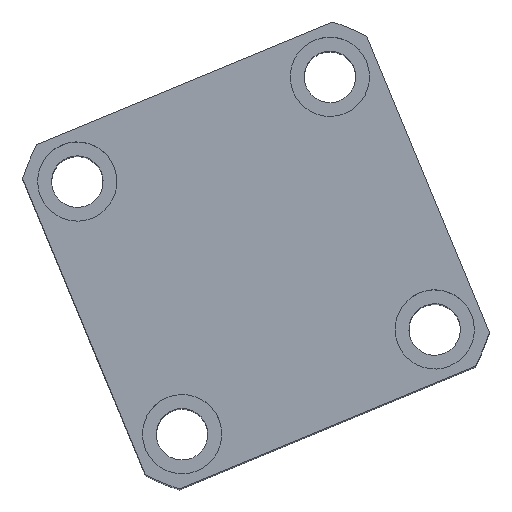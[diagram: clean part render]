
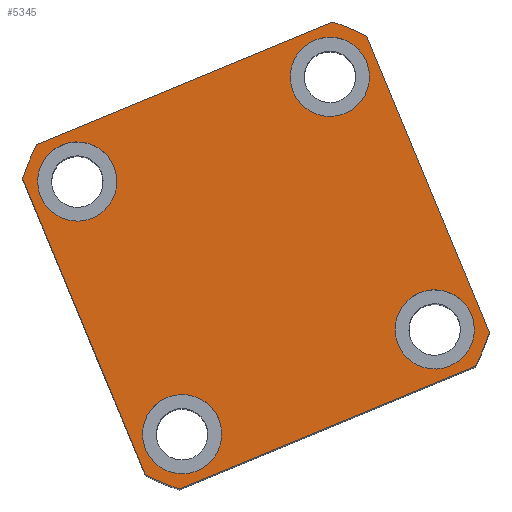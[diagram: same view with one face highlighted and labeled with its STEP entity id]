
A CAD part, top view. The second image highlights one B-rep face of the part: STEP entity #5345.
In plain terms, the highlighted planar face has unit normal (0, 0, 1) as drawn and (0, 0, -1) by its records, which use the part's own axes.
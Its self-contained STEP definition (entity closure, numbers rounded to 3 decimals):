
#85 = EDGE_LOOP ( 'NONE', ( #21228, #8187 ) ) ;
#237 = EDGE_CURVE ( 'NONE', #12508, #12687, #6396, .T. ) ;
#327 = DIRECTION ( 'NONE',  ( -1., 0., 0. ) ) ;
#636 = DIRECTION ( 'NONE',  ( 1., 0., 0. ) ) ;
#758 = FACE_BOUND ( 'NONE', #10509, .T. ) ;
#806 = CARTESIAN_POINT ( 'NONE',  ( -47., -40.435, 0. ) ) ;
#1016 = AXIS2_PLACEMENT_3D ( 'NONE', #5175, #20611, #20677 ) ;
#1119 = DIRECTION ( 'NONE',  ( 0., 0., -1. ) ) ;
#1120 = CIRCLE ( 'NONE', #6675, 10. ) ;
#1406 = EDGE_CURVE ( 'NONE', #20919, #4020, #7980, .T. ) ;
#1445 = DIRECTION ( 'NONE',  ( -1., 0., 0. ) ) ;
#1477 = DIRECTION ( 'NONE',  ( 0., 1., 0. ) ) ;
#1649 = ORIENTED_EDGE ( 'NONE', *, *, #6946, .F. ) ;
#1874 = DIRECTION ( 'NONE',  ( 0., 0., -1. ) ) ;
#1892 = VERTEX_POINT ( 'NONE', #15935 ) ;
#2081 = CIRCLE ( 'NONE', #14887, 10. ) ;
#2180 = EDGE_CURVE ( 'NONE', #6702, #1892, #2604, .T. ) ;
#2240 = VECTOR ( 'NONE', #21221, 1000. ) ;
#2587 = EDGE_CURVE ( 'NONE', #17488, #5610, #18224, .T. ) ;
#2604 = CIRCLE ( 'NONE', #9728, 62. ) ;
#2925 = ORIENTED_EDGE ( 'NONE', *, *, #17351, .F. ) ;
#3380 = EDGE_CURVE ( 'NONE', #1892, #8359, #4036, .T. ) ;
#3423 = VECTOR ( 'NONE', #18660, 1000. ) ;
#3490 = VECTOR ( 'NONE', #1477, 1000. ) ;
#4020 = VERTEX_POINT ( 'NONE', #21328 ) ;
#4036 = LINE ( 'NONE', #15121, #3490 ) ;
#4294 = FACE_BOUND ( 'NONE', #9649, .T. ) ;
#4534 = CARTESIAN_POINT ( 'NONE',  ( 44.5, 34.5, 0. ) ) ;
#4647 = CARTESIAN_POINT ( 'NONE',  ( -47., -47., 0. ) ) ;
#4968 = EDGE_LOOP ( 'NONE', ( #6343, #8137, #13708, #7943, #16363, #9401, #2925, #19614 ) ) ;
#5162 = CIRCLE ( 'NONE', #9027, 62. ) ;
#5175 = CARTESIAN_POINT ( 'NONE',  ( 0., 0., 0. ) ) ;
#5345 = ADVANCED_FACE ( 'NONE', ( #4294, #8828, #22079, #758, #12923 ), #18954, .F. ) ;
#5610 = VERTEX_POINT ( 'NONE', #14106 ) ;
#5635 = DIRECTION ( 'NONE',  ( 0., 0., 1. ) ) ;
#5738 = EDGE_CURVE ( 'NONE', #9385, #12350, #2081, .T. ) ;
#6343 = ORIENTED_EDGE ( 'NONE', *, *, #18314, .F. ) ;
#6393 = DIRECTION ( 'NONE',  ( 0., 0., 1. ) ) ;
#6396 = CIRCLE ( 'NONE', #21846, 10. ) ;
#6449 = CARTESIAN_POINT ( 'NONE',  ( -44.5, -34.5, 0. ) ) ;
#6495 = ORIENTED_EDGE ( 'NONE', *, *, #237, .F. ) ;
#6599 = CARTESIAN_POINT ( 'NONE',  ( -47., 40.435, 0. ) ) ;
#6675 = AXIS2_PLACEMENT_3D ( 'NONE', #12218, #1874, #13936 ) ;
#6702 = VERTEX_POINT ( 'NONE', #12682 ) ;
#6946 = EDGE_CURVE ( 'NONE', #12687, #12508, #9917, .T. ) ;
#7143 = CARTESIAN_POINT ( 'NONE',  ( 44.5, -34.5, 0. ) ) ;
#7373 = EDGE_CURVE ( 'NONE', #12849, #8267, #10703, .T. ) ;
#7631 = DIRECTION ( 'NONE',  ( 0., 0., -1. ) ) ;
#7943 = ORIENTED_EDGE ( 'NONE', *, *, #20661, .F. ) ;
#7980 = LINE ( 'NONE', #18951, #3423 ) ;
#8077 = DIRECTION ( 'NONE',  ( 1., 0., 0. ) ) ;
#8137 = ORIENTED_EDGE ( 'NONE', *, *, #3380, .F. ) ;
#8187 = ORIENTED_EDGE ( 'NONE', *, *, #21404, .F. ) ;
#8267 = VERTEX_POINT ( 'NONE', #7143 ) ;
#8359 = VERTEX_POINT ( 'NONE', #17484 ) ;
#8398 = CIRCLE ( 'NONE', #16366, 10. ) ;
#8567 = CARTESIAN_POINT ( 'NONE',  ( -34.5, -34.5, 0. ) ) ;
#8752 = EDGE_CURVE ( 'NONE', #12350, #9385, #12856, .T. ) ;
#8793 = CARTESIAN_POINT ( 'NONE',  ( 0., 0., 0. ) ) ;
#8828 = FACE_BOUND ( 'NONE', #85, .T. ) ;
#8891 = ORIENTED_EDGE ( 'NONE', *, *, #5738, .F. ) ;
#9027 = AXIS2_PLACEMENT_3D ( 'NONE', #15952, #5635, #17687 ) ;
#9064 = ORIENTED_EDGE ( 'NONE', *, *, #8752, .F. ) ;
#9127 = VERTEX_POINT ( 'NONE', #6599 ) ;
#9385 = VERTEX_POINT ( 'NONE', #13969 ) ;
#9401 = ORIENTED_EDGE ( 'NONE', *, *, #13397, .F. ) ;
#9649 = EDGE_LOOP ( 'NONE', ( #15061, #12637 ) ) ;
#9722 = CARTESIAN_POINT ( 'NONE',  ( 34.5, 34.5, 0. ) ) ;
#9728 = AXIS2_PLACEMENT_3D ( 'NONE', #16721, #6393, #18453 ) ;
#9917 = CIRCLE ( 'NONE', #15170, 10. ) ;
#10314 = DIRECTION ( 'NONE',  ( -1., 0., 0. ) ) ;
#10509 = EDGE_LOOP ( 'NONE', ( #6495, #1649 ) ) ;
#10531 = DIRECTION ( 'NONE',  ( 1., 0., 0. ) ) ;
#10664 = DIRECTION ( 'NONE',  ( 0., 0., -1. ) ) ;
#10703 = CIRCLE ( 'NONE', #15873, 10. ) ;
#10983 = DIRECTION ( 'NONE',  ( 0., 0., 1. ) ) ;
#11453 = CARTESIAN_POINT ( 'NONE',  ( -34.5, 34.5, 0. ) ) ;
#11470 = DIRECTION ( 'NONE',  ( -1., 0., 0. ) ) ;
#11667 = VERTEX_POINT ( 'NONE', #6449 ) ;
#11709 = CARTESIAN_POINT ( 'NONE',  ( 40.435, 47., 0. ) ) ;
#11791 = DIRECTION ( 'NONE',  ( 0., 0., -1. ) ) ;
#12218 = CARTESIAN_POINT ( 'NONE',  ( 34.5, -34.5, 0. ) ) ;
#12350 = VERTEX_POINT ( 'NONE', #13859 ) ;
#12508 = VERTEX_POINT ( 'NONE', #19515 ) ;
#12637 = ORIENTED_EDGE ( 'NONE', *, *, #21917, .F. ) ;
#12682 = CARTESIAN_POINT ( 'NONE',  ( 40.435, -47., 0. ) ) ;
#12687 = VERTEX_POINT ( 'NONE', #4534 ) ;
#12849 = VERTEX_POINT ( 'NONE', #22087 ) ;
#12856 = CIRCLE ( 'NONE', #19669, 10. ) ;
#12923 = FACE_OUTER_BOUND ( 'NONE', #4968, .T. ) ;
#13190 = DIRECTION ( 'NONE',  ( -1., 0., 0. ) ) ;
#13397 = EDGE_CURVE ( 'NONE', #9127, #17488, #20594, .T. ) ;
#13708 = ORIENTED_EDGE ( 'NONE', *, *, #2180, .F. ) ;
#13859 = CARTESIAN_POINT ( 'NONE',  ( -24.5, 34.5, 0. ) ) ;
#13936 = DIRECTION ( 'NONE',  ( -1., 0., 0. ) ) ;
#13969 = CARTESIAN_POINT ( 'NONE',  ( -44.5, 34.5, 0. ) ) ;
#14106 = CARTESIAN_POINT ( 'NONE',  ( -40.435, -47., 0. ) ) ;
#14887 = AXIS2_PLACEMENT_3D ( 'NONE', #17962, #7631, #19711 ) ;
#15061 = ORIENTED_EDGE ( 'NONE', *, *, #7373, .F. ) ;
#15115 = AXIS2_PLACEMENT_3D ( 'NONE', #8567, #20633, #10314 ) ;
#15121 = CARTESIAN_POINT ( 'NONE',  ( 47., 47., 0. ) ) ;
#15143 = CIRCLE ( 'NONE', #15650, 62. ) ;
#15170 = AXIS2_PLACEMENT_3D ( 'NONE', #9722, #21786, #11470 ) ;
#15650 = AXIS2_PLACEMENT_3D ( 'NONE', #21308, #10983, #636 ) ;
#15873 = AXIS2_PLACEMENT_3D ( 'NONE', #22121, #11791, #1445 ) ;
#15899 = CIRCLE ( 'NONE', #15115, 10. ) ;
#15935 = CARTESIAN_POINT ( 'NONE',  ( 47., -40.435, 0. ) ) ;
#15952 = CARTESIAN_POINT ( 'NONE',  ( 0., 0., 0. ) ) ;
#16363 = ORIENTED_EDGE ( 'NONE', *, *, #2587, .F. ) ;
#16366 = AXIS2_PLACEMENT_3D ( 'NONE', #20993, #10664, #327 ) ;
#16721 = CARTESIAN_POINT ( 'NONE',  ( 0., 0., 0. ) ) ;
#16771 = LINE ( 'NONE', #4647, #20807 ) ;
#17351 = EDGE_CURVE ( 'NONE', #4020, #9127, #15143, .T. ) ;
#17484 = CARTESIAN_POINT ( 'NONE',  ( 47., 40.435, 0. ) ) ;
#17488 = VERTEX_POINT ( 'NONE', #806 ) ;
#17673 = EDGE_LOOP ( 'NONE', ( #8891, #9064 ) ) ;
#17687 = DIRECTION ( 'NONE',  ( 1., 0., 0. ) ) ;
#17962 = CARTESIAN_POINT ( 'NONE',  ( -34.5, 34.5, 0. ) ) ;
#18224 = CIRCLE ( 'NONE', #18961, 62. ) ;
#18314 = EDGE_CURVE ( 'NONE', #8359, #20919, #5162, .T. ) ;
#18453 = DIRECTION ( 'NONE',  ( 1., 0., 0. ) ) ;
#18660 = DIRECTION ( 'NONE',  ( -1., 0., 0. ) ) ;
#18951 = CARTESIAN_POINT ( 'NONE',  ( -47., 47., 0. ) ) ;
#18954 = PLANE ( 'NONE',  #1016 ) ;
#18961 = AXIS2_PLACEMENT_3D ( 'NONE', #8793, #20858, #10531 ) ;
#19515 = CARTESIAN_POINT ( 'NONE',  ( 24.5, 34.5, 0. ) ) ;
#19614 = ORIENTED_EDGE ( 'NONE', *, *, #1406, .F. ) ;
#19669 = AXIS2_PLACEMENT_3D ( 'NONE', #11453, #1119, #13190 ) ;
#19691 = EDGE_CURVE ( 'NONE', #11667, #21232, #15899, .T. ) ;
#19711 = DIRECTION ( 'NONE',  ( -1., 0., 0. ) ) ;
#20562 = CARTESIAN_POINT ( 'NONE',  ( -24.5, -34.5, 0. ) ) ;
#20594 = LINE ( 'NONE', #20994, #2240 ) ;
#20611 = DIRECTION ( 'NONE',  ( 0., 0., 1. ) ) ;
#20633 = DIRECTION ( 'NONE',  ( 0., 0., -1. ) ) ;
#20661 = EDGE_CURVE ( 'NONE', #5610, #6702, #16771, .T. ) ;
#20677 = DIRECTION ( 'NONE',  ( 1., 0., 0. ) ) ;
#20807 = VECTOR ( 'NONE', #8077, 1000. ) ;
#20858 = DIRECTION ( 'NONE',  ( 0., 0., 1. ) ) ;
#20919 = VERTEX_POINT ( 'NONE', #11709 ) ;
#20993 = CARTESIAN_POINT ( 'NONE',  ( -34.5, -34.5, 0. ) ) ;
#20994 = CARTESIAN_POINT ( 'NONE',  ( -47., 47., 0. ) ) ;
#21072 = DIRECTION ( 'NONE',  ( 0., 0., -1. ) ) ;
#21221 = DIRECTION ( 'NONE',  ( 0., -1., 0. ) ) ;
#21228 = ORIENTED_EDGE ( 'NONE', *, *, #19691, .F. ) ;
#21232 = VERTEX_POINT ( 'NONE', #20562 ) ;
#21308 = CARTESIAN_POINT ( 'NONE',  ( 0., 0., 0. ) ) ;
#21328 = CARTESIAN_POINT ( 'NONE',  ( -40.435, 47., 0. ) ) ;
#21404 = EDGE_CURVE ( 'NONE', #21232, #11667, #8398, .T. ) ;
#21786 = DIRECTION ( 'NONE',  ( 0., 0., -1. ) ) ;
#21805 = CARTESIAN_POINT ( 'NONE',  ( 34.5, 34.5, 0. ) ) ;
#21846 = AXIS2_PLACEMENT_3D ( 'NONE', #21805, #21072, #22088 ) ;
#21917 = EDGE_CURVE ( 'NONE', #8267, #12849, #1120, .T. ) ;
#22079 = FACE_BOUND ( 'NONE', #17673, .T. ) ;
#22087 = CARTESIAN_POINT ( 'NONE',  ( 24.5, -34.5, 0. ) ) ;
#22088 = DIRECTION ( 'NONE',  ( -1., 0., 0. ) ) ;
#22121 = CARTESIAN_POINT ( 'NONE',  ( 34.5, -34.5, 0. ) ) ;
